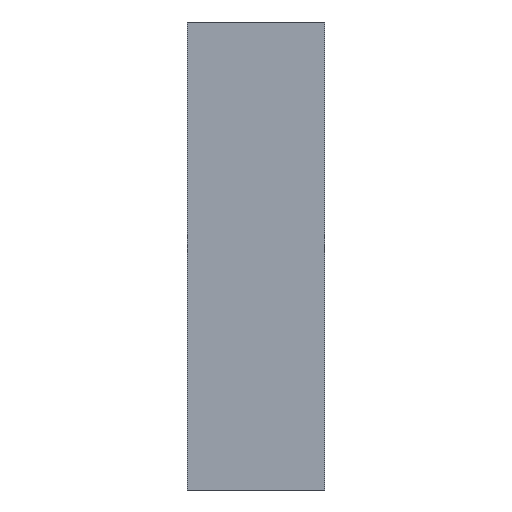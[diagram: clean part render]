
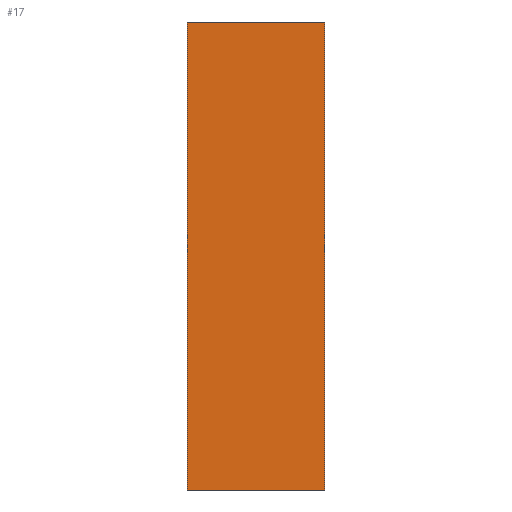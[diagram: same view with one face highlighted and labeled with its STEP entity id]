
A CAD part, front view. The second image highlights one B-rep face of the part: STEP entity #17.
In plain terms, the highlighted planar face has unit normal (0, -1, 0).
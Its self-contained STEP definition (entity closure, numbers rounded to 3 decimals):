
#17 = ADVANCED_FACE('',(#18),#32,.F.);
#18 = FACE_BOUND('',#19,.F.);
#19 = EDGE_LOOP('',(#20,#55,#83,#111));
#20 = ORIENTED_EDGE('',*,*,#21,.T.);
#21 = EDGE_CURVE('',#22,#24,#26,.T.);
#22 = VERTEX_POINT('',#23);
#23 = CARTESIAN_POINT('',(-2.9,-10.5,0.));
#24 = VERTEX_POINT('',#25);
#25 = CARTESIAN_POINT('',(2.9,-10.5,0.));
#26 = SURFACE_CURVE('',#27,(#31,#43),.PCURVE_S1.);
#27 = LINE('',#28,#29);
#28 = CARTESIAN_POINT('',(-2.9,-10.5,0.));
#29 = VECTOR('',#30,1.);
#30 = DIRECTION('',(1.,0.,0.));
#31 = PCURVE('',#32,#37);
#32 = PLANE('',#33);
#33 = AXIS2_PLACEMENT_3D('',#34,#35,#36);
#34 = CARTESIAN_POINT('',(-2.9,-10.5,0.));
#35 = DIRECTION('',(0.,1.,0.));
#36 = DIRECTION('',(0.,0.,-1.));
#37 = DEFINITIONAL_REPRESENTATION('',(#38),#42);
#38 = LINE('',#39,#40);
#39 = CARTESIAN_POINT('',(0.,0.));
#40 = VECTOR('',#41,1.);
#41 = DIRECTION('',(0.,-1.));
#42 = ( GEOMETRIC_REPRESENTATION_CONTEXT(2) 
PARAMETRIC_REPRESENTATION_CONTEXT() REPRESENTATION_CONTEXT('2D SPACE',''
  ) );
#43 = PCURVE('',#44,#49);
#44 = PLANE('',#45);
#45 = AXIS2_PLACEMENT_3D('',#46,#47,#48);
#46 = CARTESIAN_POINT('',(-2.9,10.5,0.));
#47 = DIRECTION('',(0.,0.,-1.));
#48 = DIRECTION('',(0.,-1.,0.));
#49 = DEFINITIONAL_REPRESENTATION('',(#50),#54);
#50 = LINE('',#51,#52);
#51 = CARTESIAN_POINT('',(21.001,0.));
#52 = VECTOR('',#53,1.);
#53 = DIRECTION('',(0.,-1.));
#54 = ( GEOMETRIC_REPRESENTATION_CONTEXT(2) 
PARAMETRIC_REPRESENTATION_CONTEXT() REPRESENTATION_CONTEXT('2D SPACE',''
  ) );
#55 = ORIENTED_EDGE('',*,*,#56,.T.);
#56 = EDGE_CURVE('',#24,#57,#59,.T.);
#57 = VERTEX_POINT('',#58);
#58 = CARTESIAN_POINT('',(2.9,-10.5,-19.812));
#59 = SURFACE_CURVE('',#60,(#64,#71),.PCURVE_S1.);
#60 = LINE('',#61,#62);
#61 = CARTESIAN_POINT('',(2.9,-10.5,0.));
#62 = VECTOR('',#63,1.);
#63 = DIRECTION('',(0.,0.,-1.));
#64 = PCURVE('',#32,#65);
#65 = DEFINITIONAL_REPRESENTATION('',(#66),#70);
#66 = LINE('',#67,#68);
#67 = CARTESIAN_POINT('',(0.,-5.8));
#68 = VECTOR('',#69,1.);
#69 = DIRECTION('',(1.,0.));
#70 = ( GEOMETRIC_REPRESENTATION_CONTEXT(2) 
PARAMETRIC_REPRESENTATION_CONTEXT() REPRESENTATION_CONTEXT('2D SPACE',''
  ) );
#71 = PCURVE('',#72,#77);
#72 = PLANE('',#73);
#73 = AXIS2_PLACEMENT_3D('',#74,#75,#76);
#74 = CARTESIAN_POINT('',(2.9,-10.5,0.));
#75 = DIRECTION('',(-1.,0.,0.));
#76 = DIRECTION('',(0.,0.,-1.));
#77 = DEFINITIONAL_REPRESENTATION('',(#78),#82);
#78 = LINE('',#79,#80);
#79 = CARTESIAN_POINT('',(0.,-0.));
#80 = VECTOR('',#81,1.);
#81 = DIRECTION('',(1.,0.));
#82 = ( GEOMETRIC_REPRESENTATION_CONTEXT(2) 
PARAMETRIC_REPRESENTATION_CONTEXT() REPRESENTATION_CONTEXT('2D SPACE',''
  ) );
#83 = ORIENTED_EDGE('',*,*,#84,.F.);
#84 = EDGE_CURVE('',#85,#57,#87,.T.);
#85 = VERTEX_POINT('',#86);
#86 = CARTESIAN_POINT('',(-2.9,-10.5,-19.812));
#87 = SURFACE_CURVE('',#88,(#92,#99),.PCURVE_S1.);
#88 = LINE('',#89,#90);
#89 = CARTESIAN_POINT('',(-2.9,-10.5,-19.812));
#90 = VECTOR('',#91,1.);
#91 = DIRECTION('',(1.,0.,0.));
#92 = PCURVE('',#32,#93);
#93 = DEFINITIONAL_REPRESENTATION('',(#94),#98);
#94 = LINE('',#95,#96);
#95 = CARTESIAN_POINT('',(19.812,0.));
#96 = VECTOR('',#97,1.);
#97 = DIRECTION('',(0.,-1.));
#98 = ( GEOMETRIC_REPRESENTATION_CONTEXT(2) 
PARAMETRIC_REPRESENTATION_CONTEXT() REPRESENTATION_CONTEXT('2D SPACE',''
  ) );
#99 = PCURVE('',#100,#105);
#100 = PLANE('',#101);
#101 = AXIS2_PLACEMENT_3D('',#102,#103,#104);
#102 = CARTESIAN_POINT('',(-2.9,-10.5,-19.812));
#103 = DIRECTION('',(0.,-0.225,0.974)
  );
#104 = DIRECTION('',(0.,0.974,0.225));
#105 = DEFINITIONAL_REPRESENTATION('',(#106),#110);
#106 = LINE('',#107,#108);
#107 = CARTESIAN_POINT('',(0.,0.));
#108 = VECTOR('',#109,1.);
#109 = DIRECTION('',(0.,-1.));
#110 = ( GEOMETRIC_REPRESENTATION_CONTEXT(2) 
PARAMETRIC_REPRESENTATION_CONTEXT() REPRESENTATION_CONTEXT('2D SPACE',''
  ) );
#111 = ORIENTED_EDGE('',*,*,#112,.F.);
#112 = EDGE_CURVE('',#22,#85,#113,.T.);
#113 = SURFACE_CURVE('',#114,(#118,#125),.PCURVE_S1.);
#114 = LINE('',#115,#116);
#115 = CARTESIAN_POINT('',(-2.9,-10.5,0.));
#116 = VECTOR('',#117,1.);
#117 = DIRECTION('',(0.,0.,-1.));
#118 = PCURVE('',#32,#119);
#119 = DEFINITIONAL_REPRESENTATION('',(#120),#124);
#120 = LINE('',#121,#122);
#121 = CARTESIAN_POINT('',(0.,0.));
#122 = VECTOR('',#123,1.);
#123 = DIRECTION('',(1.,0.));
#124 = ( GEOMETRIC_REPRESENTATION_CONTEXT(2) 
PARAMETRIC_REPRESENTATION_CONTEXT() REPRESENTATION_CONTEXT('2D SPACE',''
  ) );
#125 = PCURVE('',#126,#131);
#126 = PLANE('',#127);
#127 = AXIS2_PLACEMENT_3D('',#128,#129,#130);
#128 = CARTESIAN_POINT('',(-2.9,-10.5,0.));
#129 = DIRECTION('',(-1.,0.,0.));
#130 = DIRECTION('',(0.,0.,-1.));
#131 = DEFINITIONAL_REPRESENTATION('',(#132),#136);
#132 = LINE('',#133,#134);
#133 = CARTESIAN_POINT('',(0.,-0.));
#134 = VECTOR('',#135,1.);
#135 = DIRECTION('',(1.,0.));
#136 = ( GEOMETRIC_REPRESENTATION_CONTEXT(2) 
PARAMETRIC_REPRESENTATION_CONTEXT() REPRESENTATION_CONTEXT('2D SPACE',''
  ) );
